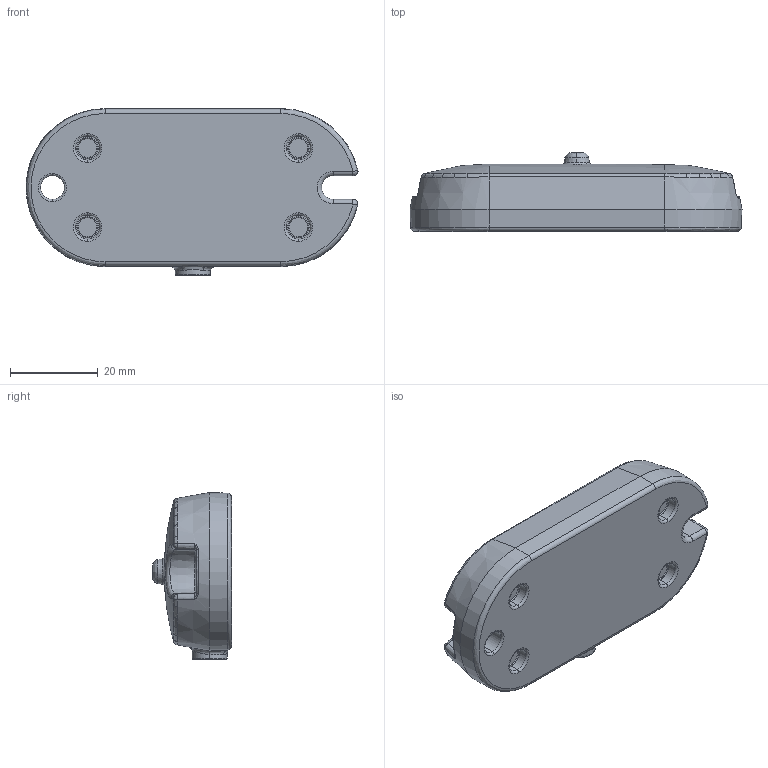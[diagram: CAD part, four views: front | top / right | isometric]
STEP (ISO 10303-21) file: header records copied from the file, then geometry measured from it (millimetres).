
FILE_DESCRIPTION (( 'STEP AP203' ), '1' );
FILE_NAME ('TBL.STEP', '2014-01-16T02:37:14', ( 'stanley' ), ( '' ), 'SwSTEP 2.0', 'SolidWorks 2010', '' );
FILE_SCHEMA (( 'CONFIG_CONTROL_DESIGN' ));
Length unit declared in the file: millimetre
Products named in the file (1): TBL
Bounding box: 75.59 x 18 x 38 mm (x, y, z)
Volume: 32144.2 mm3; surface area: 7564.9 mm2
Topology: 1 solids, 1 shells, 173 faces, 393 edges, 232 vertices
Faces by surface type: bspline 90, plane 29, cylinder 28, cone 26
Entity records: 12877 total; most frequent: CARTESIAN_POINT 9598, ORIENTED_EDGE 778, DIRECTION 464, EDGE_CURVE 389, VERTEX_POINT 232, AXIS2_PLACEMENT_3D 192, EDGE_LOOP 189, B_SPLINE_CURVE_WITH_KNOTS 185
